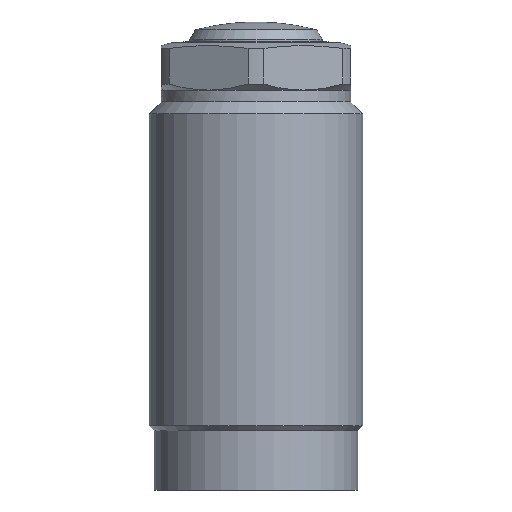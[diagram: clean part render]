
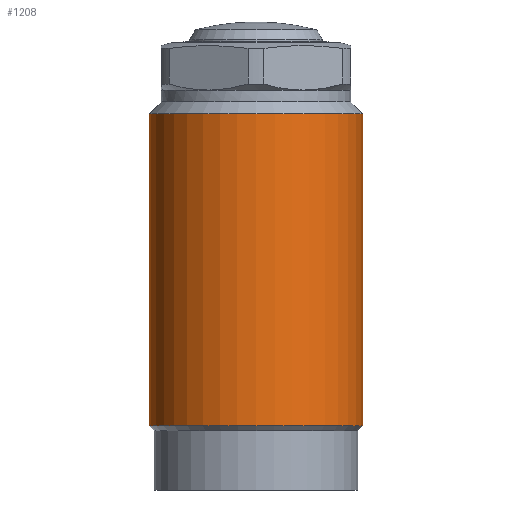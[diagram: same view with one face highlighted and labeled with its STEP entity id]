
A CAD part, front view. The second image highlights one B-rep face of the part: STEP entity #1208.
In plain terms, the highlighted cylindrical face has radius 18 mm (diameter 36 mm), a partial arc.
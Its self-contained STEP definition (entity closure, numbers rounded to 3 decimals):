
#1145=CARTESIAN_POINT('',(-18.,0.0,-64.65));
#1146=VERTEX_POINT('',#1145);
#1154=CARTESIAN_POINT('',(18.,0.0,-64.65));
#1155=VERTEX_POINT('',#1154);
#1162=CARTESIAN_POINT('',(-0.0,0.0,-64.65));
#1163=DIRECTION('',(0.0,0.0,1.0));
#1164=DIRECTION('',(1.0,0.0,0.0));
#1165=AXIS2_PLACEMENT_3D('',#1162,#1163,#1164);
#1166=CIRCLE('',#1165,18.);
#1167=EDGE_CURVE('no 1878',#1146,#1155,#1166,.T.);
#1177=CARTESIAN_POINT('',(-18.,0.0,-12.));
#1178=VERTEX_POINT('',#1177);
#1179=CARTESIAN_POINT('',(-18.,0.0,-64.65));
#1180=DIRECTION('',(-0.0,-0.0,1.0));
#1181=VECTOR('',#1180,1.0);
#1182=LINE('',#1179,#1181);
#1183=EDGE_CURVE('no 1888',#1146,#1178,#1182,.T.);
#1184=ORIENTED_EDGE('',*,*,#1183,.F.);
#1185=ORIENTED_EDGE('',*,*,#1167,.T.);
#1186=CARTESIAN_POINT('',(18.,0.0,-12.));
#1187=VERTEX_POINT('',#1186);
#1188=CARTESIAN_POINT('',(18.,0.0,-64.65));
#1189=DIRECTION('',(0.0,0.0,1.0));
#1190=VECTOR('',#1189,1.0);
#1191=LINE('',#1188,#1190);
#1192=EDGE_CURVE('no 1896',#1155,#1187,#1191,.T.);
#1193=ORIENTED_EDGE('',*,*,#1192,.T.);
#1194=CARTESIAN_POINT('',(-0.0,0.0,-12.));
#1195=DIRECTION('',(0.0,0.0,1.0));
#1196=DIRECTION('',(1.0,0.0,0.0));
#1197=AXIS2_PLACEMENT_3D('',#1194,#1195,#1196);
#1198=CIRCLE('',#1197,18.);
#1199=EDGE_CURVE('no 1900',#1178,#1187,#1198,.T.);
#1200=ORIENTED_EDGE('',*,*,#1199,.F.);
#1201=EDGE_LOOP('',(#1184,#1185,#1193,#1200));
#1202=FACE_OUTER_BOUND('',#1201,.T.);
#1203=CARTESIAN_POINT('',(-0.0,0.0,4.451));
#1204=DIRECTION('',(0.0,0.0,1.0));
#1205=DIRECTION('',(0.0,1.0,0.0));
#1206=AXIS2_PLACEMENT_3D('',#1203,#1204,#1205);
#1207=CYLINDRICAL_SURFACE('',#1206,18.);
#1208=ADVANCED_FACE('no 1881',(#1202),#1207,.T.);
